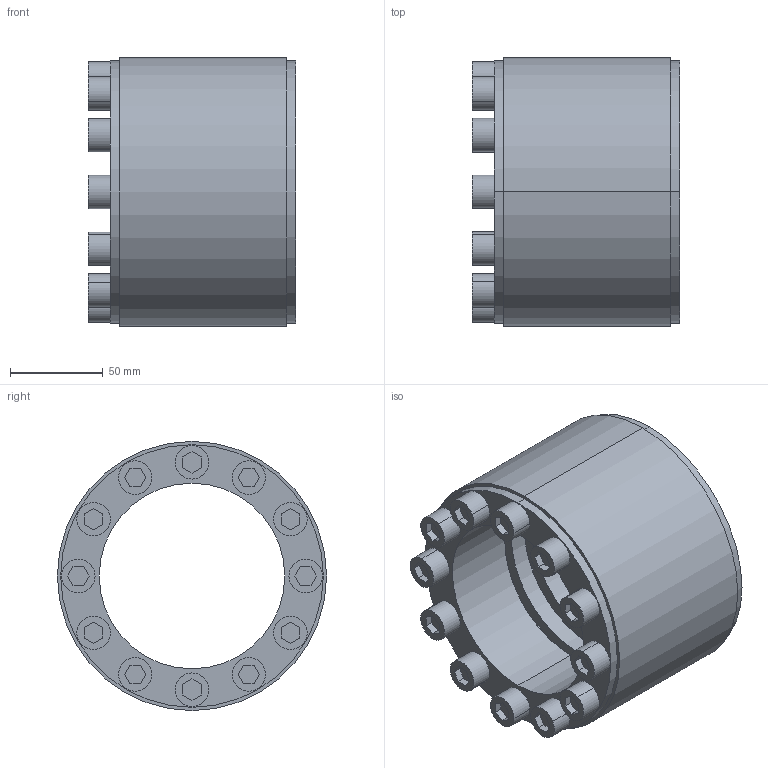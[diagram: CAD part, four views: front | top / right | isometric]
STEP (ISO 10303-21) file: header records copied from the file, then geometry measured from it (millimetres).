
FILE_DESCRIPTION (( 'STEP AP203' ), '1' );
FILE_NAME ('SF-100.STEP', '2009-09-29T17:20:50', ( 'USER' ), ( 'HOME' ), 'SwSTEP 2.0', 'SolidWorks 2007', '' );
FILE_SCHEMA (( 'CONFIG_CONTROL_DESIGN' ));
Length unit declared in the file: millimetre
Products named in the file (1): SF-100
Bounding box: 112 x 145 x 145 mm (x, y, z)
Volume: 818612.8 mm3; surface area: 203388.6 mm2
Topology: 13 solids, 13 shells, 264 faces, 624 edges, 416 vertices
Faces by surface type: cylinder 136, plane 128
Entity records: 7901 total; most frequent: DIRECTION 1426, CARTESIAN_POINT 1305, ORIENTED_EDGE 1248, EDGE_CURVE 624, AXIS2_PLACEMENT_3D 537, VERTEX_POINT 416, EDGE_LOOP 368, VECTOR 352
